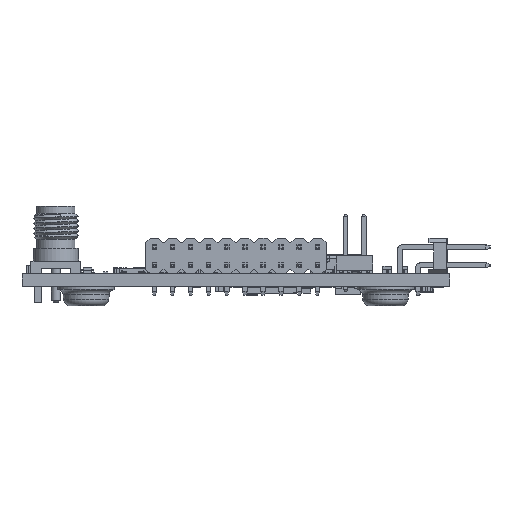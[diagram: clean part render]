
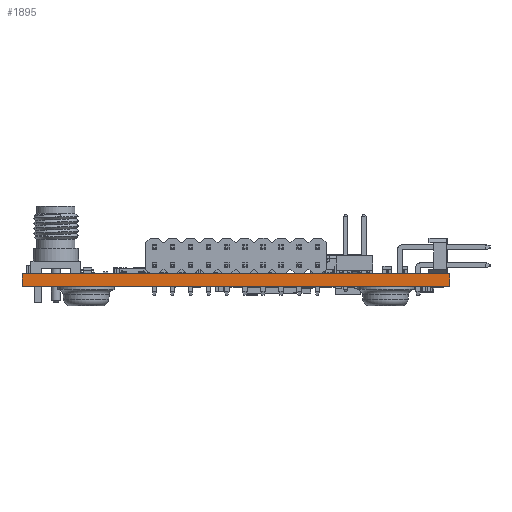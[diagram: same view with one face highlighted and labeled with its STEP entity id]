
A CAD part, front view. The second image highlights one B-rep face of the part: STEP entity #1895.
In plain terms, the highlighted planar face has unit normal (0, -1, 0).
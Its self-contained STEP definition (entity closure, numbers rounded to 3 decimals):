
#492 = EDGE_CURVE('',#493,#495,#497,.T.);
#493 = VERTEX_POINT('',#494);
#494 = CARTESIAN_POINT('',(0.,-100.,0.));
#495 = VERTEX_POINT('',#496);
#496 = CARTESIAN_POINT('',(0.,-100.,1.692));
#497 = SURFACE_CURVE('',#498,(#502,#514),.PCURVE_S1.);
#498 = LINE('',#499,#500);
#499 = CARTESIAN_POINT('',(0.,-100.,0.));
#500 = VECTOR('',#501,1.);
#501 = DIRECTION('',(0.,0.,1.));
#502 = PCURVE('',#503,#508);
#503 = PLANE('',#504);
#504 = AXIS2_PLACEMENT_3D('',#505,#506,#507);
#505 = CARTESIAN_POINT('',(0.,-100.,0.));
#506 = DIRECTION('',(-1.,0.,0.));
#507 = DIRECTION('',(0.,1.,0.));
#508 = DEFINITIONAL_REPRESENTATION('',(#509),#513);
#509 = LINE('',#510,#511);
#510 = CARTESIAN_POINT('',(0.,0.));
#511 = VECTOR('',#512,1.);
#512 = DIRECTION('',(0.,-1.));
#513 = ( GEOMETRIC_REPRESENTATION_CONTEXT(2) 
PARAMETRIC_REPRESENTATION_CONTEXT() REPRESENTATION_CONTEXT('2D SPACE',''
  ) );
#514 = PCURVE('',#515,#520);
#515 = PLANE('',#516);
#516 = AXIS2_PLACEMENT_3D('',#517,#518,#519);
#517 = CARTESIAN_POINT('',(-60.,-100.,0.));
#518 = DIRECTION('',(0.,1.,0.));
#519 = DIRECTION('',(1.,0.,0.));
#520 = DEFINITIONAL_REPRESENTATION('',(#521),#525);
#521 = LINE('',#522,#523);
#522 = CARTESIAN_POINT('',(60.,0.));
#523 = VECTOR('',#524,1.);
#524 = DIRECTION('',(0.,-1.));
#525 = ( GEOMETRIC_REPRESENTATION_CONTEXT(2) 
PARAMETRIC_REPRESENTATION_CONTEXT() REPRESENTATION_CONTEXT('2D SPACE',''
  ) );
#543 = PLANE('',#544);
#544 = AXIS2_PLACEMENT_3D('',#545,#546,#547);
#545 = CARTESIAN_POINT('',(0.,-100.,1.692));
#546 = DIRECTION('',(0.,0.,-1.));
#547 = DIRECTION('',(-1.,0.,0.));
#597 = PLANE('',#598);
#598 = AXIS2_PLACEMENT_3D('',#599,#600,#601);
#599 = CARTESIAN_POINT('',(0.,-100.,0.));
#600 = DIRECTION('',(0.,0.,-1.));
#601 = DIRECTION('',(-1.,0.,0.));
#1792 = PLANE('',#1793);
#1793 = AXIS2_PLACEMENT_3D('',#1794,#1795,#1796);
#1794 = CARTESIAN_POINT('',(-60.,0.,0.));
#1795 = DIRECTION('',(1.,0.,0.));
#1796 = DIRECTION('',(0.,-1.,0.));
#1830 = VERTEX_POINT('',#1831);
#1831 = CARTESIAN_POINT('',(-60.,-100.,1.692));
#1852 = EDGE_CURVE('',#1853,#1830,#1855,.T.);
#1853 = VERTEX_POINT('',#1854);
#1854 = CARTESIAN_POINT('',(-60.,-100.,0.));
#1855 = SURFACE_CURVE('',#1856,(#1860,#1867),.PCURVE_S1.);
#1856 = LINE('',#1857,#1858);
#1857 = CARTESIAN_POINT('',(-60.,-100.,0.));
#1858 = VECTOR('',#1859,1.);
#1859 = DIRECTION('',(0.,0.,1.));
#1860 = PCURVE('',#1792,#1861);
#1861 = DEFINITIONAL_REPRESENTATION('',(#1862),#1866);
#1862 = LINE('',#1863,#1864);
#1863 = CARTESIAN_POINT('',(100.,0.));
#1864 = VECTOR('',#1865,1.);
#1865 = DIRECTION('',(0.,-1.));
#1866 = ( GEOMETRIC_REPRESENTATION_CONTEXT(2) 
PARAMETRIC_REPRESENTATION_CONTEXT() REPRESENTATION_CONTEXT('2D SPACE',''
  ) );
#1867 = PCURVE('',#515,#1868);
#1868 = DEFINITIONAL_REPRESENTATION('',(#1869),#1873);
#1869 = LINE('',#1870,#1871);
#1870 = CARTESIAN_POINT('',(0.,0.));
#1871 = VECTOR('',#1872,1.);
#1872 = DIRECTION('',(0.,-1.));
#1873 = ( GEOMETRIC_REPRESENTATION_CONTEXT(2) 
PARAMETRIC_REPRESENTATION_CONTEXT() REPRESENTATION_CONTEXT('2D SPACE',''
  ) );
#1895 = ADVANCED_FACE('',(#1896),#515,.F.);
#1896 = FACE_BOUND('',#1897,.F.);
#1897 = EDGE_LOOP('',(#1898,#1899,#1920,#1921));
#1898 = ORIENTED_EDGE('',*,*,#1852,.T.);
#1899 = ORIENTED_EDGE('',*,*,#1900,.T.);
#1900 = EDGE_CURVE('',#1830,#495,#1901,.T.);
#1901 = SURFACE_CURVE('',#1902,(#1906,#1913),.PCURVE_S1.);
#1902 = LINE('',#1903,#1904);
#1903 = CARTESIAN_POINT('',(-60.,-100.,1.692));
#1904 = VECTOR('',#1905,1.);
#1905 = DIRECTION('',(1.,0.,0.));
#1906 = PCURVE('',#515,#1907);
#1907 = DEFINITIONAL_REPRESENTATION('',(#1908),#1912);
#1908 = LINE('',#1909,#1910);
#1909 = CARTESIAN_POINT('',(0.,-1.692));
#1910 = VECTOR('',#1911,1.);
#1911 = DIRECTION('',(1.,0.));
#1912 = ( GEOMETRIC_REPRESENTATION_CONTEXT(2) 
PARAMETRIC_REPRESENTATION_CONTEXT() REPRESENTATION_CONTEXT('2D SPACE',''
  ) );
#1913 = PCURVE('',#543,#1914);
#1914 = DEFINITIONAL_REPRESENTATION('',(#1915),#1919);
#1915 = LINE('',#1916,#1917);
#1916 = CARTESIAN_POINT('',(60.,0.));
#1917 = VECTOR('',#1918,1.);
#1918 = DIRECTION('',(-1.,0.));
#1919 = ( GEOMETRIC_REPRESENTATION_CONTEXT(2) 
PARAMETRIC_REPRESENTATION_CONTEXT() REPRESENTATION_CONTEXT('2D SPACE',''
  ) );
#1920 = ORIENTED_EDGE('',*,*,#492,.F.);
#1921 = ORIENTED_EDGE('',*,*,#1922,.F.);
#1922 = EDGE_CURVE('',#1853,#493,#1923,.T.);
#1923 = SURFACE_CURVE('',#1924,(#1928,#1935),.PCURVE_S1.);
#1924 = LINE('',#1925,#1926);
#1925 = CARTESIAN_POINT('',(-60.,-100.,0.));
#1926 = VECTOR('',#1927,1.);
#1927 = DIRECTION('',(1.,0.,0.));
#1928 = PCURVE('',#515,#1929);
#1929 = DEFINITIONAL_REPRESENTATION('',(#1930),#1934);
#1930 = LINE('',#1931,#1932);
#1931 = CARTESIAN_POINT('',(0.,0.));
#1932 = VECTOR('',#1933,1.);
#1933 = DIRECTION('',(1.,0.));
#1934 = ( GEOMETRIC_REPRESENTATION_CONTEXT(2) 
PARAMETRIC_REPRESENTATION_CONTEXT() REPRESENTATION_CONTEXT('2D SPACE',''
  ) );
#1935 = PCURVE('',#597,#1936);
#1936 = DEFINITIONAL_REPRESENTATION('',(#1937),#1941);
#1937 = LINE('',#1938,#1939);
#1938 = CARTESIAN_POINT('',(60.,0.));
#1939 = VECTOR('',#1940,1.);
#1940 = DIRECTION('',(-1.,0.));
#1941 = ( GEOMETRIC_REPRESENTATION_CONTEXT(2) 
PARAMETRIC_REPRESENTATION_CONTEXT() REPRESENTATION_CONTEXT('2D SPACE',''
  ) );
